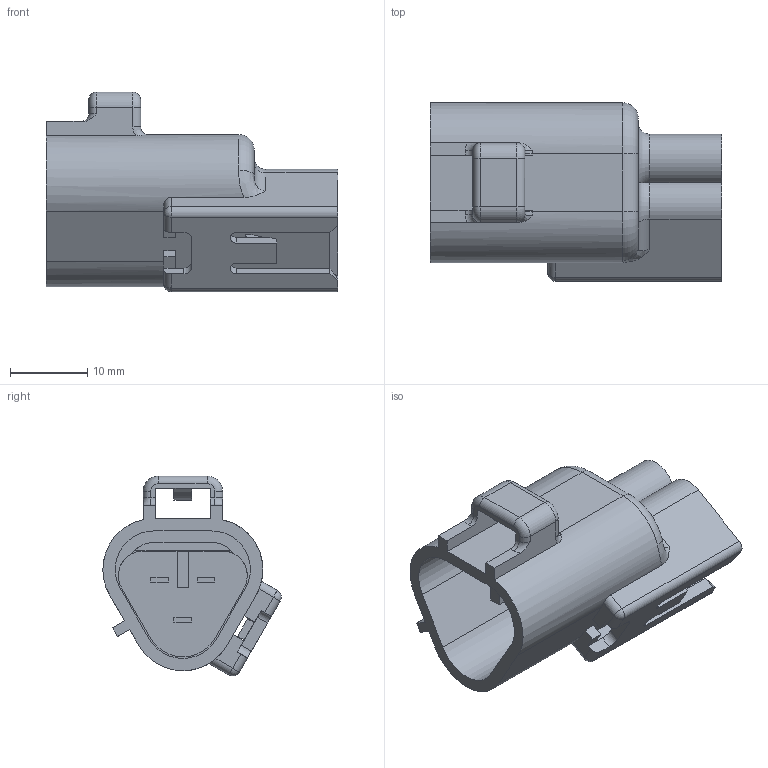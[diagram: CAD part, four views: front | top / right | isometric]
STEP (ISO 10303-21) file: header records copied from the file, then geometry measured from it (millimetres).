
FILE_DESCRIPTION(('CATIA V5 STEP Exchange'),'2;1');
FILE_NAME('N:\C-DAM_MyDesk\ENV\11093U\1設\6188-0099.stp','2013-02-28T02:57:13+00:00',('none'),('none'),'CATIA Version 5 Release 20 SP 4 (IN-10)','CATIA V5 STEP AP203','none');
FILE_SCHEMA(('CONFIG_CONTROL_DESIGN'));
Length unit declared in the file: millimetre
Products named in the file (1): 6188-0099
Bounding box: 37.7 x 23.08 x 25.86 mm (x, y, z)
Volume: 7210.7 mm3; surface area: 6007.5 mm2
Topology: 1 solids, 1 shells, 164 faces, 437 edges, 277 vertices
Faces by surface type: plane 92, cylinder 45, torus 13, bspline 12, sphere 2
Entity records: 5533 total; most frequent: CARTESIAN_POINT 1619, ORIENTED_EDGE 870, DIRECTION 664, EDGE_CURVE 435, VECTOR 284, LINE 284, VERTEX_POINT 277, AXIS2_PLACEMENT_3D 246
